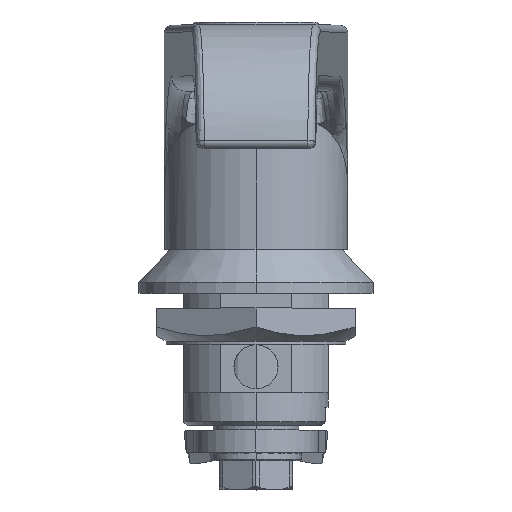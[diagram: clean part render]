
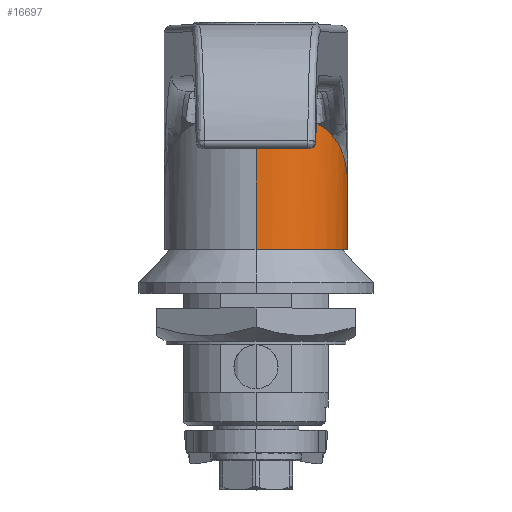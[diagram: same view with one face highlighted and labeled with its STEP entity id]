
A CAD part, top view. The second image highlights one B-rep face of the part: STEP entity #16697.
In plain terms, the highlighted cylindrical face has radius 12.5 mm (diameter 25 mm), a partial arc.
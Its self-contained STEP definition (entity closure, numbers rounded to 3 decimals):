
#168 = VERTEX_POINT ( 'NONE', #6616 ) ;
#278 = VERTEX_POINT ( 'NONE', #10849 ) ;
#352 = CARTESIAN_POINT ( 'NONE',  ( 7.96, 18.815, 9.638 ) ) ;
#620 = DIRECTION ( 'NONE',  ( 0., 0., -1. ) ) ;
#650 = CARTESIAN_POINT ( 'NONE',  ( 0., 32., 12.5 ) ) ;
#689 = CARTESIAN_POINT ( 'NONE',  ( 11.951, 14.203, 3.689 ) ) ;
#775 = AXIS2_PLACEMENT_3D ( 'NONE', #19046, #10276, #13367 ) ;
#821 = AXIS2_PLACEMENT_3D ( 'NONE', #7384, #900, #8082 ) ;
#900 = DIRECTION ( 'NONE',  ( 0., 1., 0. ) ) ;
#1016 = CARTESIAN_POINT ( 'NONE',  ( 10.255, 17.167, 7.147 ) ) ;
#1056 = CARTESIAN_POINT ( 'NONE',  ( 0., 1.5, -12.5 ) ) ;
#1339 = EDGE_CURVE ( 'NONE', #8607, #11653, #18347, .T. ) ;
#1362 = VERTEX_POINT ( 'NONE', #16008 ) ;
#1398 = VERTEX_POINT ( 'NONE', #1016 ) ;
#1598 = DIRECTION ( 'NONE',  ( 0., -1., 0. ) ) ;
#1667 = CARTESIAN_POINT ( 'NONE',  ( 0., 32., -12.5 ) ) ;
#2055 = CARTESIAN_POINT ( 'NONE',  ( 0., 32., 0. ) ) ;
#2195 = CARTESIAN_POINT ( 'NONE',  ( 11.476, 15.418, 4.977 ) ) ;
#2313 = ORIENTED_EDGE ( 'NONE', *, *, #6031, .T. ) ;
#2420 = B_SPLINE_CURVE_WITH_KNOTS ( 'NONE', 3,
 ( #352, #4261, #19086, #17152 ),
 .UNSPECIFIED., .F., .F.,
 ( 4, 4 ),
 ( 0., 1. ),
 .UNSPECIFIED. ) ;
#3310 = CARTESIAN_POINT ( 'NONE',  ( 0., 31., -12.5 ) ) ;
#3651 = CARTESIAN_POINT ( 'NONE',  ( 12.264, 12.886, 2.451 ) ) ;
#3725 = CARTESIAN_POINT ( 'NONE',  ( 10.818, 16.514, 6.283 ) ) ;
#3798 = CIRCLE ( 'NONE', #775, 12.5 ) ;
#4261 = CARTESIAN_POINT ( 'NONE',  ( 7.907, 19.877, 9.682 ) ) ;
#4442 = EDGE_CURVE ( 'NONE', #278, #1362, #7404, .T. ) ;
#4733 = B_SPLINE_CURVE_WITH_KNOTS ( 'NONE', 3,
 ( #9284, #9344, #9688, #9717 ),
 .UNSPECIFIED., .F., .F.,
 ( 4, 4 ),
 ( 0., 1. ),
 .UNSPECIFIED. ) ;
#4816 = ORIENTED_EDGE ( 'NONE', *, *, #9482, .F. ) ;
#5048 = EDGE_CURVE ( 'NONE', #16220, #278, #18141, .T. ) ;
#5269 = CARTESIAN_POINT ( 'NONE',  ( 10.255, 17.167, 7.147 ) ) ;
#6009 = VECTOR ( 'NONE', #15846, 1000. ) ;
#6031 = EDGE_CURVE ( 'NONE', #1362, #15938, #8142, .T. ) ;
#6517 = EDGE_CURVE ( 'NONE', #15283, #15938, #8923, .T. ) ;
#6616 = CARTESIAN_POINT ( 'NONE',  ( 12.329, 12.422, 2.058 ) ) ;
#6670 = CARTESIAN_POINT ( 'NONE',  ( 7.96, 18.815, 9.638 ) ) ;
#6691 = CARTESIAN_POINT ( 'NONE',  ( 12.489, 31., 0.533 ) ) ;
#6750 = CARTESIAN_POINT ( 'NONE',  ( 8.877, 18.366, 8.881 ) ) ;
#6797 = CARTESIAN_POINT ( 'NONE',  ( 9.634, 17.823, 8.039 ) ) ;
#6830 = EDGE_CURVE ( 'NONE', #11653, #168, #4733, .T. ) ;
#6994 = CARTESIAN_POINT ( 'NONE',  ( 10.255, 17.167, 7.147 ) ) ;
#7152 = ORIENTED_EDGE ( 'NONE', *, *, #5048, .T. ) ;
#7384 = CARTESIAN_POINT ( 'NONE',  ( 0., 1.5, 0. ) ) ;
#7404 = LINE ( 'NONE', #650, #6009 ) ;
#7583 = EDGE_CURVE ( 'NONE', #1398, #14827, #15537, .T. ) ;
#7778 = EDGE_LOOP ( 'NONE', ( #7152, #8656, #2313, #9238, #4816, #9454, #9794, #9041, #8697, #9642 ) ) ;
#8082 = DIRECTION ( 'NONE',  ( 0., 0., -1. ) ) ;
#8142 = CIRCLE ( 'NONE', #821, 12.5 ) ;
#8211 = EDGE_CURVE ( 'NONE', #14827, #16220, #2420, .T. ) ;
#8607 = VERTEX_POINT ( 'NONE', #6691 ) ;
#8656 = ORIENTED_EDGE ( 'NONE', *, *, #4442, .T. ) ;
#8697 = ORIENTED_EDGE ( 'NONE', *, *, #7583, .T. ) ;
#8923 = LINE ( 'NONE', #1667, #12661 ) ;
#9041 = ORIENTED_EDGE ( 'NONE', *, *, #16727, .T. ) ;
#9238 = ORIENTED_EDGE ( 'NONE', *, *, #6517, .F. ) ;
#9284 = CARTESIAN_POINT ( 'NONE',  ( 12.489, 10.627, 0.533 ) ) ;
#9344 = CARTESIAN_POINT ( 'NONE',  ( 12.463, 11.346, 1.144 ) ) ;
#9454 = ORIENTED_EDGE ( 'NONE', *, *, #1339, .T. ) ;
#9482 = EDGE_CURVE ( 'NONE', #8607, #15283, #3798, .T. ) ;
#9564 = DIRECTION ( 'NONE',  ( 0., -1., 0. ) ) ;
#9642 = ORIENTED_EDGE ( 'NONE', *, *, #8211, .T. ) ;
#9688 = CARTESIAN_POINT ( 'NONE',  ( 12.397, 11.945, 1.652 ) ) ;
#9717 = CARTESIAN_POINT ( 'NONE',  ( 12.329, 12.422, 2.058 ) ) ;
#9756 = CARTESIAN_POINT ( 'NONE',  ( 12.177, 13.335, 2.856 ) ) ;
#9783 = CARTESIAN_POINT ( 'NONE',  ( 7.8, 22., 9.768 ) ) ;
#9794 = ORIENTED_EDGE ( 'NONE', *, *, #6830, .T. ) ;
#10276 = DIRECTION ( 'NONE',  ( 0., 1., 0. ) ) ;
#10849 = CARTESIAN_POINT ( 'NONE',  ( 0., 22., 12.5 ) ) ;
#11292 = CARTESIAN_POINT ( 'NONE',  ( 11.812, 14.619, 4.115 ) ) ;
#11653 = VERTEX_POINT ( 'NONE', #17363 ) ;
#12311 = B_SPLINE_CURVE_WITH_KNOTS ( 'NONE', 3,
 ( #15657, #3651, #9756, #689, #11292, #2195, #12823, #3725, #14280, #5269 ),
 .UNSPECIFIED., .F., .F.,
 ( 4, 2, 2, 2, 4 ),
 ( 0., 0.002, 0.004, 0.005, 0.007 ),
 .UNSPECIFIED. ) ;
#12661 = VECTOR ( 'NONE', #1598, 1000. ) ;
#12823 = CARTESIAN_POINT ( 'NONE',  ( 11.278, 15.798, 5.414 ) ) ;
#13367 = DIRECTION ( 'NONE',  ( 0., 0., 1. ) ) ;
#13393 = AXIS2_PLACEMENT_3D ( 'NONE', #2055, #14066, #620 ) ;
#14066 = DIRECTION ( 'NONE',  ( 0., -1., 0. ) ) ;
#14280 = CARTESIAN_POINT ( 'NONE',  ( 10.555, 16.851, 6.717 ) ) ;
#14456 = CARTESIAN_POINT ( 'NONE',  ( 7.96, 18.815, 9.638 ) ) ;
#14482 = CARTESIAN_POINT ( 'NONE',  ( 12.489, 32., 0.533 ) ) ;
#14827 = VERTEX_POINT ( 'NONE', #14456 ) ;
#15283 = VERTEX_POINT ( 'NONE', #3310 ) ;
#15385 = CYLINDRICAL_SURFACE ( 'NONE', #13393, 12.5 ) ;
#15432 = VECTOR ( 'NONE', #9564, 1000. ) ;
#15537 = B_SPLINE_CURVE_WITH_KNOTS ( 'NONE', 3,
 ( #6994, #6797, #6750, #6670 ),
 .UNSPECIFIED., .F., .F.,
 ( 4, 4 ),
 ( 0., 0.004 ),
 .UNSPECIFIED. ) ;
#15657 = CARTESIAN_POINT ( 'NONE',  ( 12.329, 12.422, 2.058 ) ) ;
#15846 = DIRECTION ( 'NONE',  ( 0., -1., 0. ) ) ;
#15938 = VERTEX_POINT ( 'NONE', #1056 ) ;
#16008 = CARTESIAN_POINT ( 'NONE',  ( 0., 1.5, 12.5 ) ) ;
#16220 = VERTEX_POINT ( 'NONE', #9783 ) ;
#16523 = FACE_OUTER_BOUND ( 'NONE', #7778, .T. ) ;
#16697 = ADVANCED_FACE ( 'NONE', ( #16523 ), #15385, .T. ) ;
#16727 = EDGE_CURVE ( 'NONE', #168, #1398, #12311, .T. ) ;
#17005 = AXIS2_PLACEMENT_3D ( 'NONE', #18326, #18266, #18220 ) ;
#17152 = CARTESIAN_POINT ( 'NONE',  ( 7.8, 22., 9.768 ) ) ;
#17363 = CARTESIAN_POINT ( 'NONE',  ( 12.489, 10.627, 0.533 ) ) ;
#18141 = CIRCLE ( 'NONE', #17005, 12.5 ) ;
#18220 = DIRECTION ( 'NONE',  ( 0., 0., -1. ) ) ;
#18266 = DIRECTION ( 'NONE',  ( 0., -1., 0. ) ) ;
#18326 = CARTESIAN_POINT ( 'NONE',  ( 0., 22., 0. ) ) ;
#18347 = LINE ( 'NONE', #14482, #15432 ) ;
#19046 = CARTESIAN_POINT ( 'NONE',  ( 0., 31., 0. ) ) ;
#19086 = CARTESIAN_POINT ( 'NONE',  ( 7.853, 20.938, 9.725 ) ) ;
